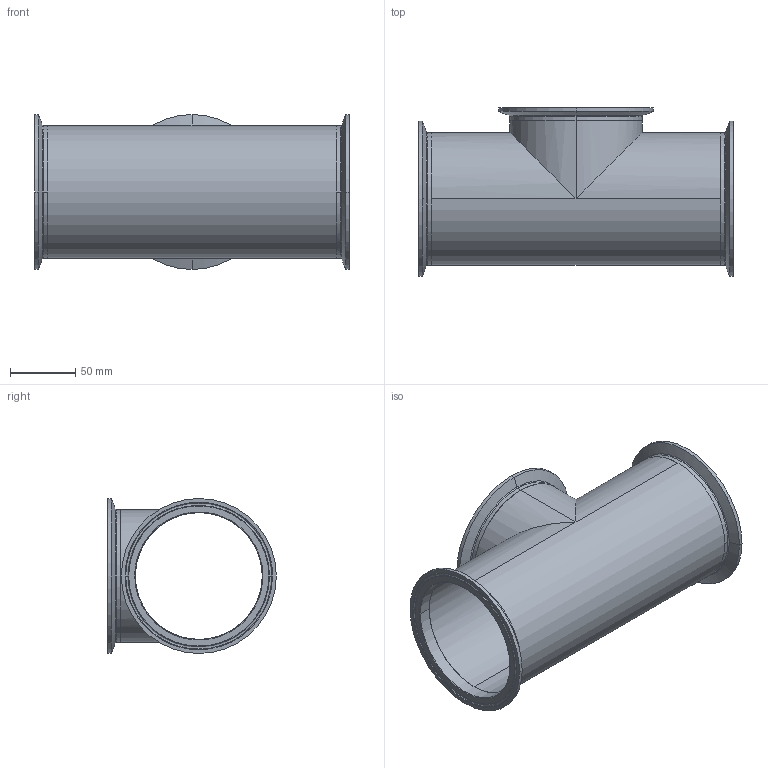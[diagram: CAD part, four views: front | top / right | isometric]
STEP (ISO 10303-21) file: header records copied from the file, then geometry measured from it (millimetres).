
FILE_DESCRIPTION (( 'STEP AP214' ), '1' );
FILE_NAME ('TEG7S6L4.0-...STEP', '2016-05-24T12:27:43', ( 'eran' ), ( '' ), 'SwSTEP 2.0', 'SolidWorks 2016', '' );
FILE_SCHEMA (( 'AUTOMOTIVE_DESIGN' ));
Length unit declared in the file: millimetre
Products named in the file (1): TEG7S6L4.0-..
Bounding box: 241.4 x 129.36 x 118.92 mm (x, y, z)
Volume: 202033.1 mm3; surface area: 177387.4 mm2
Topology: 4 solids, 4 shells, 88 faces, 218 edges, 140 vertices
Faces by surface type: bspline 30, cylinder 28, cone 18, plane 12
Entity records: 6079 total; most frequent: CARTESIAN_POINT 3960, DIRECTION 444, ORIENTED_EDGE 436, EDGE_CURVE 218, AXIS2_PLACEMENT_3D 198, VERTEX_POINT 140, CIRCLE 139, EDGE_LOOP 100
